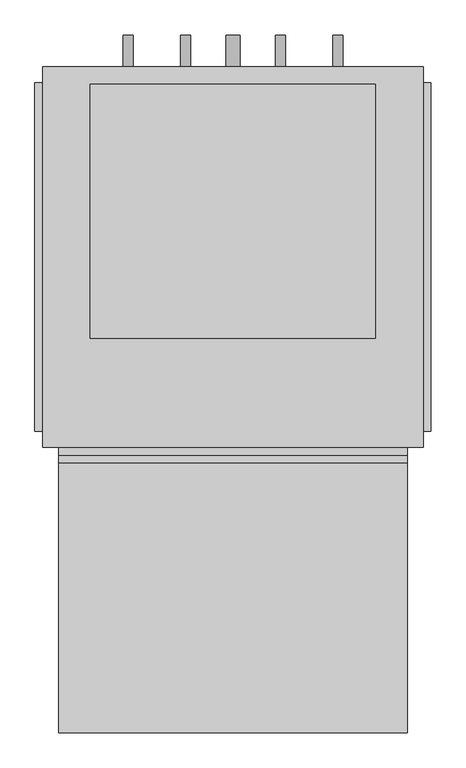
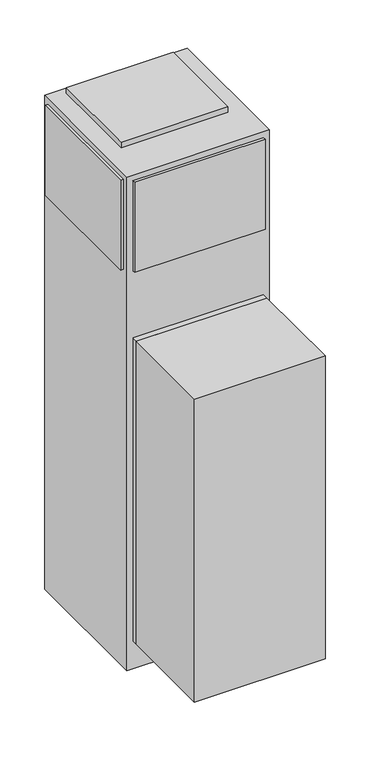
"""IFC4 building model written with IfcOpenShell, lengths in millimetres: proxy geometry, Concealed_Universal_Modular_Fan_Coil_Unit_-_42SUB_-_CARRIER_-_4-Pipe_-_NoRisers_2022 : Size 12 - 277v/60Hz/1Ph - 4/1 Coil."""

from ifc_helpers import new_model, si_unit, point, frame, frame_2d, origin, origin_with_axes, place, context, project, spatial, polyline, circle_curve, trimmed, segment, composite_curve, outline, extrude, source, transform, mapped, element, save


def mechanical_equipment_d6ec7b3b(model_context):
    return source(origin(), model_context, "Body", "SweptSolid", [
        extrude(outline(polyline([(736.6, -390.525), (736.6, -822.325), (177.8, -822.325), (177.8, -390.525), (736.6, -390.525)])), frame((0.0, 0.0, 127.0), z_axis=(0.0, 0.0, 1.0), x_axis=(1.0, 0.0, 0.0)), (0.0, 0.0, 1.0), 1371.6),
        extrude(outline(composite_curve([segment(trimmed(circle_curve(frame_2d((990.6, 625.475)), 7.9375), [point((990.6, 617.5375))], [point((990.6, 633.4125))], False, "CARTESIAN"), True, "CONTINUOUS"), segment(trimmed(circle_curve(frame_2d((990.6, 625.475)), 7.9375), [point((990.6, 633.4125))], [point((990.6, 617.5375))], False, "CARTESIAN"), True, "CONTINUOUS")], self_intersect=False)), frame((0.0, 244.475, 0.0), z_axis=(0.0, 1.0, 0.0), x_axis=(0.0, 0.0, 1.0)), (0.0, 0.0, 1.0), 50.8),
        extrude(outline(composite_curve([segment(trimmed(circle_curve(frame_2d((990.6, 533.4)), 7.9375), [point((990.6, 525.4625))], [point((990.6, 541.3375))], False, "CARTESIAN"), True, "CONTINUOUS"), segment(trimmed(circle_curve(frame_2d((990.6, 533.4)), 7.9375), [point((990.6, 541.3375))], [point((990.6, 525.4625))], False, "CARTESIAN"), True, "CONTINUOUS")], self_intersect=False)), frame((0.0, 244.475, 0.0), z_axis=(0.0, 1.0, 0.0), x_axis=(0.0, 0.0, 1.0)), (0.0, 0.0, 1.0), 50.8),
        extrude(outline(composite_curve([segment(trimmed(circle_curve(frame_2d((990.6, 381.0)), 7.9375), [point((990.6, 373.0625))], [point((990.6, 388.9375))], False, "CARTESIAN"), True, "CONTINUOUS"), segment(trimmed(circle_curve(frame_2d((990.6, 381.0)), 7.9375), [point((990.6, 388.9375))], [point((990.6, 373.0625))], False, "CARTESIAN"), True, "CONTINUOUS")], self_intersect=False)), frame((0.0, 244.475, 0.0), z_axis=(0.0, 1.0, 0.0), x_axis=(0.0, 0.0, 1.0)), (0.0, 0.0, 1.0), 50.8),
        extrude(outline(composite_curve([segment(trimmed(circle_curve(frame_2d((990.6, 288.925)), 7.9375), [point((990.6, 280.9875))], [point((990.6, 296.8625))], False, "CARTESIAN"), True, "CONTINUOUS"), segment(trimmed(circle_curve(frame_2d((990.6, 288.925)), 7.9375), [point((990.6, 296.8625))], [point((990.6, 280.9875))], False, "CARTESIAN"), True, "CONTINUOUS")], self_intersect=False)), frame((0.0, 244.475, 0.0), z_axis=(0.0, 1.0, 0.0), x_axis=(0.0, 0.0, 1.0)), (0.0, 0.0, 1.0), 50.8),
        extrude(outline(composite_curve([segment(trimmed(circle_curve(frame_2d((76.2, 457.2)), 11.1125), [point((76.2, 446.0875))], [point((76.2, 468.3125))], False, "CARTESIAN"), True, "CONTINUOUS"), segment(trimmed(circle_curve(frame_2d((76.2, 457.2)), 11.1125), [point((76.2, 468.3125))], [point((76.2, 446.0875))], False, "CARTESIAN"), True, "CONTINUOUS")], self_intersect=False)), frame((0.0, 244.475, 0.0), z_axis=(0.0, 1.0, 0.0), x_axis=(0.0, 0.0, 1.0)), (0.0, 0.0, 1.0), 50.8),
        extrude(outline(polyline([(685.8, 215.9), (685.8, -190.5), (228.6, -190.5), (228.6, 215.9), (685.8, 215.9)])), frame((0.0, 0.0, 2235.2), z_axis=(0.0, 0.0, 1.0), x_axis=(1.0, 0.0, 0.0)), (0.0, 0.0, 1.0), 25.4),
        extrude(outline(polyline([(139.7, -339.725), (139.7, 219.075), (152.4, 219.075), (152.4, -339.725), (139.7, -339.725)])), frame((0.0, 0.0, 1803.4), z_axis=(0.0, 0.0, 1.0), x_axis=(1.0, 0.0, 0.0)), (0.0, 0.0, 1.0), 406.4),
        extrude(outline(polyline([(774.7, 219.075), (774.7, -339.725), (762.0, -339.725), (762.0, 219.075), (774.7, 219.075)])), frame((0.0, 0.0, 1803.4), z_axis=(0.0, 0.0, 1.0), x_axis=(1.0, 0.0, 0.0)), (0.0, 0.0, 1.0), 406.4),
        extrude(outline(polyline([(736.6, -377.825), (177.8, -377.825), (177.8, -365.125), (736.6, -365.125), (736.6, -377.825)])), frame((0.0, 0.0, 1803.4), z_axis=(0.0, 0.0, 1.0), x_axis=(1.0, 0.0, 0.0)), (0.0, 0.0, 1.0), 406.4),
        extrude(outline(polyline([(736.6, -390.525), (177.8, -390.525), (177.8, -365.125), (736.6, -365.125), (736.6, -390.525)])), frame((0.0, 0.0, 127.0), z_axis=(0.0, 0.0, 1.0), x_axis=(1.0, 0.0, 0.0)), (0.0, 0.0, 1.0), 1371.6),
        extrude(outline(polyline([(762.0, 244.475), (762.0, -365.125), (152.4, -365.125), (152.4, 244.475), (762.0, 244.475)])), origin_with_axes(), (0.0, 0.0, 1.0), 2235.2),
    ])


if __name__ == "__main__":
    model = new_model("IFC4")
    model_context = context("Model", 3, world=origin())
    ifc_project = project(units=[si_unit("LENGTHUNIT", "METRE", prefix="MILLI")], contexts=[model_context])
    site = spatial("IfcSite", under=ifc_project)
    building = spatial("IfcBuilding", under=site)
    placement = place(None, origin())
    mechanical_equipment_shape = mechanical_equipment_d6ec7b3b(model_context)
    element("IfcBuildingElementProxy", 1, Name="Concealed_Universal_Modular_Fan_Coil_Unit_-_42SUB_-_CARRIER_-_4-Pipe_-_NoRisers_2022 : Size 12 - 277v/60Hz/1Ph - 4/1 Coil", ObjectType="Concealed_Universal_Modular_Fan_Coil_Unit_-_42SUB_-_CARRIER_-_4-Pipe_-_NoRisers_2022 : Size 12 - 277v/60Hz/1Ph - 4/1 Coil", at=placement, inside=building, context=model_context, shape_type="MappedRepresentation", body=[
        mapped(mechanical_equipment_shape, transform((0.0, 0.0, 0.0), x_axis=(1.0, 0.0, 0.0), y_axis=(0.0, 1.0, 0.0), z_axis=(0.0, 0.0, 1.0))),
    ])
    save(model, "model.ifc")
